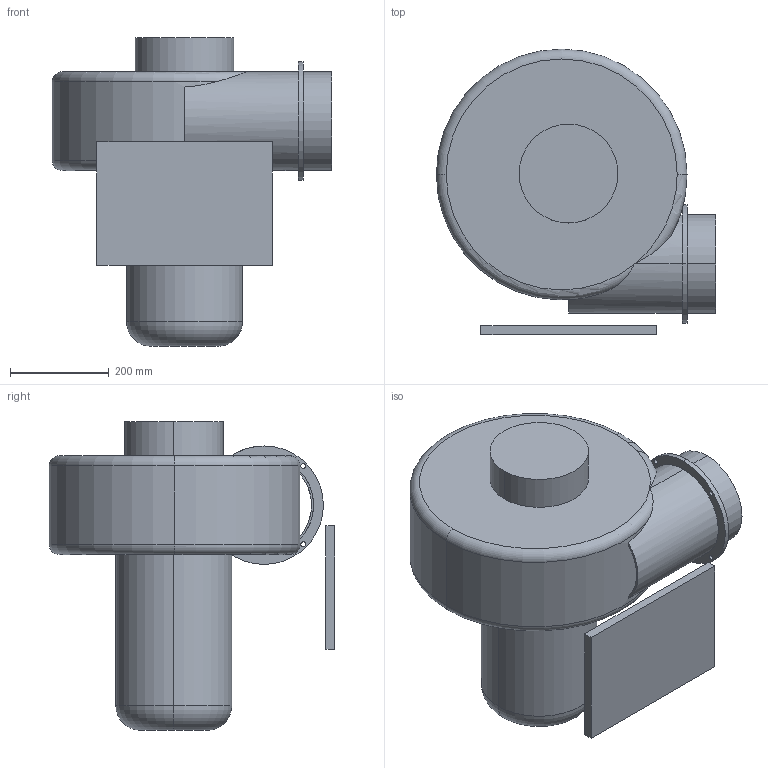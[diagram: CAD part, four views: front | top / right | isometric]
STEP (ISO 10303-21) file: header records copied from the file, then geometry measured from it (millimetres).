
FILE_DESCRIPTION (( 'STEP AP203' ), '1' );
FILE_NAME ('3700.STEP', '2019-05-09T03:31:08', ( 'User' ), ( 'www.dadighost.com' ), 'SwSTEP 2.0', 'SolidWorks 2014', '' );
FILE_SCHEMA (( 'CONFIG_CONTROL_DESIGN' ));
Length unit declared in the file: millimetre
Products named in the file (1): 3700
Bounding box: 566.01 x 578.39 x 625 mm (x, y, z)
Volume: 59669844.6 mm3; surface area: 1422031.4 mm2
Topology: 2 solids, 2 shells, 47 faces, 113 edges, 72 vertices
Faces by surface type: cylinder 23, plane 14, torus 10
Entity records: 1838 total; most frequent: CARTESIAN_POINT 614, DIRECTION 255, ORIENTED_EDGE 226, EDGE_CURVE 113, AXIS2_PLACEMENT_3D 109, VERTEX_POINT 72, CIRCLE 61, EDGE_LOOP 61
